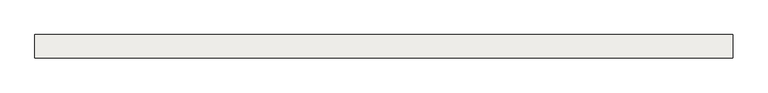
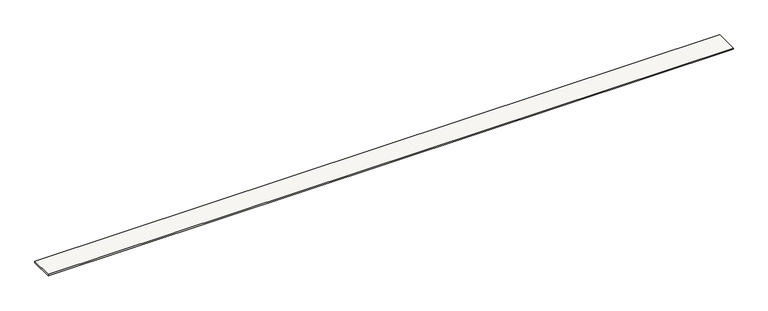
"""IFC4 building model written with IfcOpenShell, lengths in millimetres: slab geometry, Sol-02 - Tablette bois 2cm."""

from ifc_helpers import new_model, si_unit, origin, origin_with_axes, place, context, project, spatial, polyline, outline, extrude, source, transform, mapped, element, save


def slab_5eb78717(model_context):
    return source(origin(), model_context, "Body", "SweptSolid", [
        extrude(outline(polyline([(9603.9999799, 11300.0), (9603.9999799, 10980.0), (0.0, 10980.0), (0.0, 11300.0), (9603.9999799, 11300.0)])), origin_with_axes(), (0.0, 0.0, 1.0), 20.0),
    ])


if __name__ == "__main__":
    model = new_model("IFC4")
    model_context = context("Model", 3, world=origin())
    ifc_project = project(units=[si_unit("LENGTHUNIT", "METRE", prefix="MILLI")], contexts=[model_context])
    site = spatial("IfcSite", under=ifc_project)
    building = spatial("IfcBuilding", under=site)
    placement = place(None, origin())
    slab_shape = slab_5eb78717(model_context)
    element("IfcSlab", 1, ObjectType="Sol-02 - Tablette bois 2cm", at=placement, inside=building, context=model_context, shape_type="MappedRepresentation", body=[
        mapped(slab_shape, transform((0.0, 0.0, 0.0), x_axis=(1.0, 0.0, 0.0), y_axis=(0.0, 1.0, 0.0), z_axis=(0.0, 0.0, 1.0))),
    ])
    save(model, "model.ifc")
